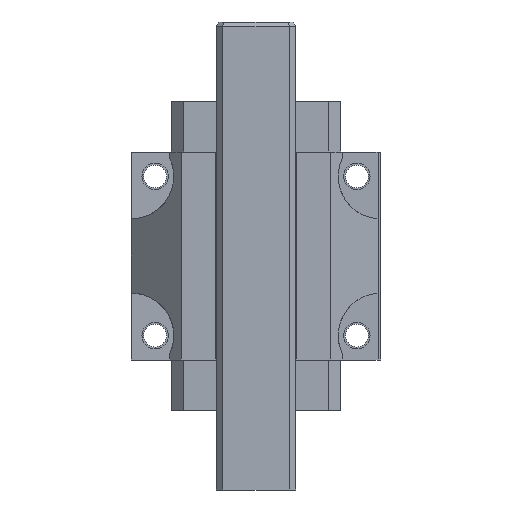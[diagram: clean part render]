
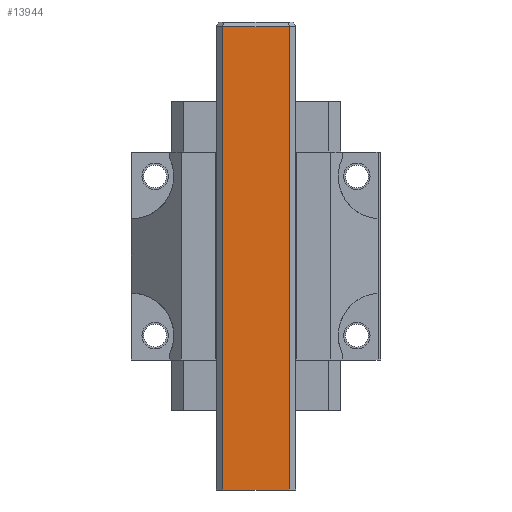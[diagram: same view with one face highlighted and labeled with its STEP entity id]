
A CAD part, front view. The second image highlights one B-rep face of the part: STEP entity #13944.
In plain terms, the highlighted planar face has unit normal (0, -1, 0).
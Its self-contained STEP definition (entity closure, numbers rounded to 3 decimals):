
#12905=DIRECTION('',(1.,0.,0.));
#12906=VECTOR('',#12905,12.6);
#12907=CARTESIAN_POINT('',(-6.3,-9.85,-44.1));
#12908=LINE('',#12907,#12906);
#13178=DIRECTION('',(1.,0.,0.));
#13179=VECTOR('',#13178,12.6);
#13180=CARTESIAN_POINT('',(-6.3,-9.85,43.234));
#13181=LINE('',#13180,#13179);
#13182=DIRECTION('',(0.,0.,1.));
#13183=VECTOR('',#13182,87.334);
#13184=CARTESIAN_POINT('',(-6.3,-9.85,-44.1));
#13185=LINE('',#13184,#13183);
#13190=DIRECTION('',(0.,0.,1.));
#13191=VECTOR('',#13190,87.334);
#13192=CARTESIAN_POINT('',(6.3,-9.85,-44.1));
#13193=LINE('',#13192,#13191);
#13376=CARTESIAN_POINT('',(-6.3,-9.85,-44.1));
#13377=VERTEX_POINT('',#13376);
#13378=CARTESIAN_POINT('',(6.3,-9.85,-44.1));
#13379=VERTEX_POINT('',#13378);
#13440=CARTESIAN_POINT('',(6.3,-9.85,43.234));
#13441=VERTEX_POINT('',#13440);
#13444=CARTESIAN_POINT('',(-6.3,-9.85,43.234));
#13445=VERTEX_POINT('',#13444);
#13932=CARTESIAN_POINT('',(-6.3,-9.85,-44.1));
#13933=DIRECTION('',(0.,-1.,0.));
#13934=DIRECTION('',(1.,0.,0.));
#13935=AXIS2_PLACEMENT_3D('',#13932,#13933,#13934);
#13936=PLANE('',#13935);
#13937=ORIENTED_EDGE('',*,*,#13923,.T.);
#13939=ORIENTED_EDGE('',*,*,#13938,.F.);
#13940=ORIENTED_EDGE('',*,*,#13525,.F.);
#13941=ORIENTED_EDGE('',*,*,#13898,.T.);
#13942=EDGE_LOOP('',(#13937,#13939,#13940,#13941));
#13943=FACE_OUTER_BOUND('',#13942,.F.);
#13525=EDGE_CURVE('',#13377,#13379,#12908,.T.);
#13898=EDGE_CURVE('',#13377,#13445,#13185,.T.);
#13923=EDGE_CURVE('',#13445,#13441,#13181,.T.);
#13938=EDGE_CURVE('',#13379,#13441,#13193,.T.);
#13944=ADVANCED_FACE('',(#13943),#13936,.T.);
